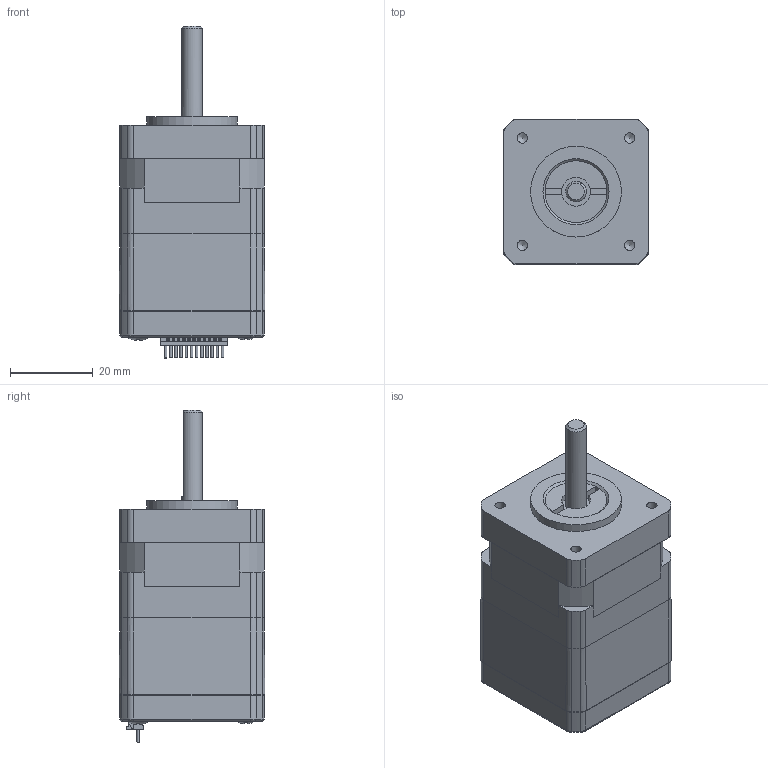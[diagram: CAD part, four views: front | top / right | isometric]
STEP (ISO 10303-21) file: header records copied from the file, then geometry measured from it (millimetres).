
FILE_DESCRIPTION (( 'STEP AP214' ), '1' );
FILE_NAME ('IM35ET(C)010-(P).STEP', '2024-11-16T03:33:47', ( '' ), ( '' ), 'SwSTEP 2.0', 'SolidWorks 2023', '' );
FILE_SCHEMA (( 'AUTOMOTIVE_DESIGN' ));
Length unit declared in the file: millimetre
Products named in the file (3): IM35电机_装配体用; IM35驱动器; IM35ET(C)010-(P)
Assembly tree (2 placements, depth 2):
  IM35ET(C)010-(P)
    IM35电机_装配体用
    IM35驱动器
Bounding box: 35.32 x 35.32 x 80.42 mm (x, y, z)
Volume: 50590.2 mm3; surface area: 23963.4 mm2
Topology: 2 solids, 4 shells, 1750 faces, 5039 edges, 3285 vertices
Faces by surface type: plane 1322, cylinder 289, cone 57, bspline 45, torus 33, sphere 4
Full cylindrical faces by diameter (mm): 0.5 x1, 0.6 x17, 0.65 x2, 0.75 x1, 0.8 x2, 1.1 x4, 1.58 x2, 2.5 x4, 3 x3, 3.1 x2, 3.2 x4, 5 x2, 5.3 x2, 5.5 x2, 5.6 x4, 6 x2, 8 x1, 10.165 x1, 22 x2
Entity records: 77320 total; most frequent: CARTESIAN_POINT 14080, ORIENTED_EDGE 9862, DIRECTION 8489, EDGE_CURVE 4931, VECTOR 3725, LINE 3725, VERTEX_POINT 3257, AXIS2_PLACEMENT_3D 2382
